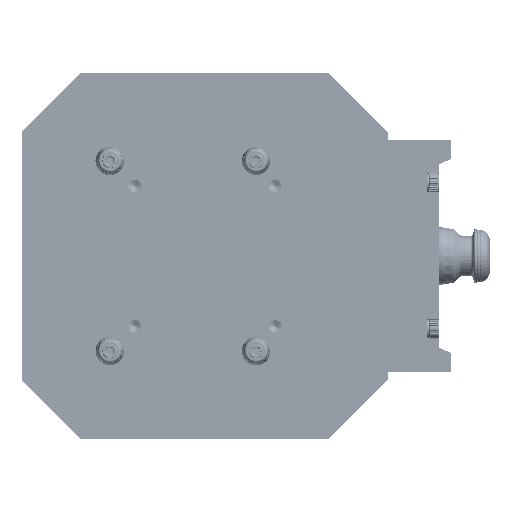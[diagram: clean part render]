
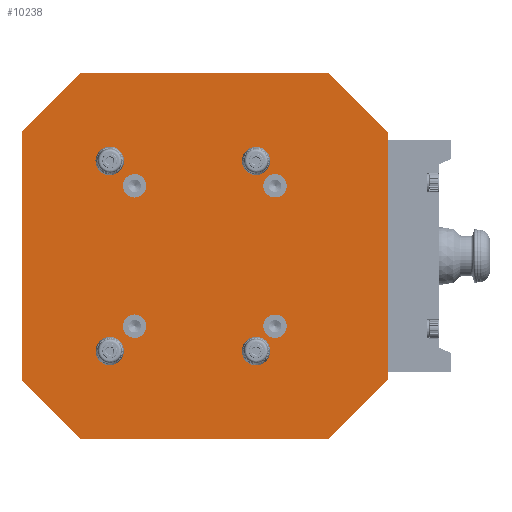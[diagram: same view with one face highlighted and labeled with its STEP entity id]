
A CAD part, front view. The second image highlights one B-rep face of the part: STEP entity #10238.
In plain terms, the highlighted planar face has unit normal (0, -1, 0).
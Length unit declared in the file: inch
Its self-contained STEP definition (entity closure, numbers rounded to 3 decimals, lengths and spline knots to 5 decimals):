
#297 = EDGE_CURVE ( 'NONE', #48071, #48071, #34391, .T. ) ;
#525 = DIRECTION ( 'NONE',  ( 1., 0., 0. ) ) ;
#1076 = CARTESIAN_POINT ( 'NONE',  ( 4.92126, 0., 3.34646 ) ) ;
#1168 = CARTESIAN_POINT ( 'NONE',  ( 1.88976, 0., 1.88976 ) ) ;
#1346 = VERTEX_POINT ( 'NONE', #46002 ) ;
#1878 = CARTESIAN_POINT ( 'NONE',  ( 1.37795, 0., -2.79541 ) ) ;
#1916 = VECTOR ( 'NONE', #18709, 39.37008 ) ;
#2020 = EDGE_CURVE ( 'NONE', #14992, #32936, #4237, .T. ) ;
#2345 = VERTEX_POINT ( 'NONE', #9365 ) ;
#3326 = EDGE_CURVE ( 'NONE', #4124, #4124, #13942, .T. ) ;
#3766 = VERTEX_POINT ( 'NONE', #23428 ) ;
#3884 = DIRECTION ( 'NONE',  ( 0., -1., 0. ) ) ;
#4099 = CARTESIAN_POINT ( 'NONE',  ( -4.92126, 0., -3.34646 ) ) ;
#4122 = DIRECTION ( 'NONE',  ( 0., 0., -1. ) ) ;
#4124 = VERTEX_POINT ( 'NONE', #42393 ) ;
#4195 = CARTESIAN_POINT ( 'NONE',  ( -4.92126, 0., 3.34646 ) ) ;
#4237 = LINE ( 'NONE', #7932, #30428 ) ;
#4385 = DIRECTION ( 'NONE',  ( 0., -1., 0. ) ) ;
#4699 = CARTESIAN_POINT ( 'NONE',  ( 4.92126, 0., -3.34646 ) ) ;
#4759 = LINE ( 'NONE', #1076, #11234 ) ;
#5616 = VECTOR ( 'NONE', #31457, 39.37008 ) ;
#6181 = CARTESIAN_POINT ( 'NONE',  ( -1.88976, 0., 1.88976 ) ) ;
#6401 = EDGE_LOOP ( 'NONE', ( #39217 ) ) ;
#6871 = EDGE_CURVE ( 'NONE', #36466, #22987, #44443, .T. ) ;
#6970 = VERTEX_POINT ( 'NONE', #29474 ) ;
#7932 = CARTESIAN_POINT ( 'NONE',  ( 3.34646, 0., -4.92126 ) ) ;
#8763 = FACE_BOUND ( 'NONE', #30552, .T. ) ;
#9365 = CARTESIAN_POINT ( 'NONE',  ( 3.34646, 0., 4.92126 ) ) ;
#9380 = DIRECTION ( 'NONE',  ( 0., 0., -1. ) ) ;
#9665 = AXIS2_PLACEMENT_3D ( 'NONE', #13380, #28342, #21266 ) ;
#9988 = VECTOR ( 'NONE', #37329, 39.37008 ) ;
#10238 = ADVANCED_FACE ( 'NONE', ( #23979, #19829, #19580, #34753, #38926, #23025, #8763, #23751, #37959 ), #31053, .T. ) ;
#10744 = EDGE_CURVE ( 'NONE', #32936, #30944, #44529, .T. ) ;
#10856 = CARTESIAN_POINT ( 'NONE',  ( -3.34646, 0., 4.92126 ) ) ;
#10916 = CARTESIAN_POINT ( 'NONE',  ( -3.34646, 0., -4.92126 ) ) ;
#11234 = VECTOR ( 'NONE', #16058, 39.37008 ) ;
#11296 = LINE ( 'NONE', #22386, #9988 ) ;
#11782 = ORIENTED_EDGE ( 'NONE', *, *, #15614, .F. ) ;
#12705 = CARTESIAN_POINT ( 'NONE',  ( 1.88976, 0., -2.20511 ) ) ;
#12822 = DIRECTION ( 'NONE',  ( 0., -1., 0. ) ) ;
#13380 = CARTESIAN_POINT ( 'NONE',  ( 1.88976, 0., -1.88976 ) ) ;
#13707 = EDGE_CURVE ( 'NONE', #28380, #28380, #19899, .T. ) ;
#13942 = CIRCLE ( 'NONE', #20236, 0.31535 ) ;
#13997 = EDGE_CURVE ( 'NONE', #6970, #14992, #4759, .T. ) ;
#14125 = DIRECTION ( 'NONE',  ( -1., 0., 0. ) ) ;
#14992 = VERTEX_POINT ( 'NONE', #4699 ) ;
#15230 = EDGE_LOOP ( 'NONE', ( #11782 ) ) ;
#15614 = EDGE_CURVE ( 'NONE', #42859, #42859, #23122, .T. ) ;
#16025 = DIRECTION ( 'NONE',  ( 0., -1., 0. ) ) ;
#16058 = DIRECTION ( 'NONE',  ( 0., 0., -1. ) ) ;
#16640 = CARTESIAN_POINT ( 'NONE',  ( -2.55906, 0., -2.55906 ) ) ;
#18080 = ORIENTED_EDGE ( 'NONE', *, *, #13707, .F. ) ;
#18513 = DIRECTION ( 'NONE',  ( 0., -1., 0. ) ) ;
#18709 = DIRECTION ( 'NONE',  ( 0.707, 0., 0.707 ) ) ;
#19210 = LINE ( 'NONE', #10856, #22032 ) ;
#19231 = VECTOR ( 'NONE', #45571, 39.37008 ) ;
#19299 = ORIENTED_EDGE ( 'NONE', *, *, #25139, .F. ) ;
#19344 = LINE ( 'NONE', #4099, #19231 ) ;
#19395 = DIRECTION ( 'NONE',  ( 0., 0., -1. ) ) ;
#19580 = FACE_BOUND ( 'NONE', #6401, .T. ) ;
#19829 = FACE_BOUND ( 'NONE', #20257, .T. ) ;
#19899 = CIRCLE ( 'NONE', #9665, 0.31535 ) ;
#19978 = CARTESIAN_POINT ( 'NONE',  ( 1.37795, 0., 2.55906 ) ) ;
#20236 = AXIS2_PLACEMENT_3D ( 'NONE', #44494, #18513, #48186 ) ;
#20257 = EDGE_LOOP ( 'NONE', ( #18080 ) ) ;
#20451 = LINE ( 'NONE', #42273, #5616 ) ;
#20590 = VERTEX_POINT ( 'NONE', #43354 ) ;
#20678 = EDGE_CURVE ( 'NONE', #29111, #29111, #27723, .T. ) ;
#20730 = AXIS2_PLACEMENT_3D ( 'NONE', #38019, #4385, #19395 ) ;
#21266 = DIRECTION ( 'NONE',  ( 0., 0., -1. ) ) ;
#21687 = ORIENTED_EDGE ( 'NONE', *, *, #3326, .F. ) ;
#22032 = VECTOR ( 'NONE', #525, 39.37008 ) ;
#22386 = CARTESIAN_POINT ( 'NONE',  ( 3.34646, 0., 4.92126 ) ) ;
#22987 = VERTEX_POINT ( 'NONE', #41818 ) ;
#23025 = FACE_BOUND ( 'NONE', #15230, .T. ) ;
#23122 = CIRCLE ( 'NONE', #20730, 0.23635 ) ;
#23428 = CARTESIAN_POINT ( 'NONE',  ( -2.55906, 0., 2.32271 ) ) ;
#23751 = FACE_BOUND ( 'NONE', #28017, .T. ) ;
#23979 = FACE_BOUND ( 'NONE', #35064, .T. ) ;
#24374 = CIRCLE ( 'NONE', #31405, 0.31535 ) ;
#24425 = EDGE_LOOP ( 'NONE', ( #19299 ) ) ;
#25139 = EDGE_CURVE ( 'NONE', #41615, #41615, #43596, .T. ) ;
#25890 = CIRCLE ( 'NONE', #39991, 0.23635 ) ;
#26673 = EDGE_LOOP ( 'NONE', ( #40993, #26838, #27038, #34194, #46697, #31909, #47691, #47861 ) ) ;
#26836 = DIRECTION ( 'NONE',  ( 0., 0., -1. ) ) ;
#26838 = ORIENTED_EDGE ( 'NONE', *, *, #38675, .F. ) ;
#26923 = EDGE_CURVE ( 'NONE', #2345, #6970, #11296, .T. ) ;
#27038 = ORIENTED_EDGE ( 'NONE', *, *, #10744, .F. ) ;
#27156 = AXIS2_PLACEMENT_3D ( 'NONE', #6181, #36128, #9380 ) ;
#27384 = DIRECTION ( 'NONE',  ( 0., -1., 0. ) ) ;
#27631 = CARTESIAN_POINT ( 'NONE',  ( 0., 0., 0. ) ) ;
#27723 = CIRCLE ( 'NONE', #35537, 0.23635 ) ;
#27907 = DIRECTION ( 'NONE',  ( 0., 0., -1. ) ) ;
#27938 = VECTOR ( 'NONE', #14125, 39.37008 ) ;
#28017 = EDGE_LOOP ( 'NONE', ( #38254 ) ) ;
#28342 = DIRECTION ( 'NONE',  ( 0., -1., 0. ) ) ;
#28380 = VERTEX_POINT ( 'NONE', #12705 ) ;
#29111 = VERTEX_POINT ( 'NONE', #32529 ) ;
#29474 = CARTESIAN_POINT ( 'NONE',  ( 4.92126, 0., 3.34646 ) ) ;
#30428 = VECTOR ( 'NONE', #37866, 39.37008 ) ;
#30552 = EDGE_LOOP ( 'NONE', ( #40863 ) ) ;
#30944 = VERTEX_POINT ( 'NONE', #37628 ) ;
#31053 = PLANE ( 'NONE',  #43613 ) ;
#31124 = EDGE_CURVE ( 'NONE', #20590, #36466, #20451, .T. ) ;
#31366 = EDGE_CURVE ( 'NONE', #1346, #1346, #24374, .T. ) ;
#31405 = AXIS2_PLACEMENT_3D ( 'NONE', #1168, #3884, #4122 ) ;
#31457 = DIRECTION ( 'NONE',  ( 0., 0., 1. ) ) ;
#31589 = DIRECTION ( 'NONE',  ( 0., -1., 0. ) ) ;
#31909 = ORIENTED_EDGE ( 'NONE', *, *, #26923, .F. ) ;
#32529 = CARTESIAN_POINT ( 'NONE',  ( -2.55906, 0., -2.79541 ) ) ;
#32936 = VERTEX_POINT ( 'NONE', #45663 ) ;
#33762 = CARTESIAN_POINT ( 'NONE',  ( -1.88976, 0., 1.57441 ) ) ;
#34194 = ORIENTED_EDGE ( 'NONE', *, *, #2020, .F. ) ;
#34391 = CIRCLE ( 'NONE', #39906, 0.23635 ) ;
#34753 = FACE_BOUND ( 'NONE', #24425, .T. ) ;
#35064 = EDGE_LOOP ( 'NONE', ( #21687 ) ) ;
#35537 = AXIS2_PLACEMENT_3D ( 'NONE', #16640, #31589, #27907 ) ;
#36128 = DIRECTION ( 'NONE',  ( 0., -1., 0. ) ) ;
#36466 = VERTEX_POINT ( 'NONE', #43667 ) ;
#37329 = DIRECTION ( 'NONE',  ( 0.707, 0., -0.707 ) ) ;
#37628 = CARTESIAN_POINT ( 'NONE',  ( -3.34646, 0., -4.92126 ) ) ;
#37866 = DIRECTION ( 'NONE',  ( -0.707, 0., -0.707 ) ) ;
#37959 = FACE_OUTER_BOUND ( 'NONE', #26673, .T. ) ;
#38019 = CARTESIAN_POINT ( 'NONE',  ( 1.37795, 0., -2.55906 ) ) ;
#38142 = EDGE_LOOP ( 'NONE', ( #39049 ) ) ;
#38254 = ORIENTED_EDGE ( 'NONE', *, *, #45429, .F. ) ;
#38358 = DIRECTION ( 'NONE',  ( 0., 0., -1. ) ) ;
#38675 = EDGE_CURVE ( 'NONE', #30944, #20590, #19344, .T. ) ;
#38690 = DIRECTION ( 'NONE',  ( 0., 0., -1. ) ) ;
#38926 = FACE_BOUND ( 'NONE', #38142, .T. ) ;
#39049 = ORIENTED_EDGE ( 'NONE', *, *, #20678, .F. ) ;
#39217 = ORIENTED_EDGE ( 'NONE', *, *, #31366, .F. ) ;
#39906 = AXIS2_PLACEMENT_3D ( 'NONE', #19978, #16025, #38358 ) ;
#39991 = AXIS2_PLACEMENT_3D ( 'NONE', #45468, #12822, #26836 ) ;
#40474 = CARTESIAN_POINT ( 'NONE',  ( 1.37795, 0., 2.32271 ) ) ;
#40863 = ORIENTED_EDGE ( 'NONE', *, *, #297, .F. ) ;
#40993 = ORIENTED_EDGE ( 'NONE', *, *, #31124, .F. ) ;
#41393 = EDGE_CURVE ( 'NONE', #22987, #2345, #19210, .T. ) ;
#41615 = VERTEX_POINT ( 'NONE', #33762 ) ;
#41818 = CARTESIAN_POINT ( 'NONE',  ( -3.34646, 0., 4.92126 ) ) ;
#42273 = CARTESIAN_POINT ( 'NONE',  ( -4.92126, 0., 3.34646 ) ) ;
#42393 = CARTESIAN_POINT ( 'NONE',  ( -1.88976, 0., -2.20511 ) ) ;
#42859 = VERTEX_POINT ( 'NONE', #1878 ) ;
#43354 = CARTESIAN_POINT ( 'NONE',  ( -4.92126, 0., -3.34646 ) ) ;
#43596 = CIRCLE ( 'NONE', #27156, 0.31535 ) ;
#43613 = AXIS2_PLACEMENT_3D ( 'NONE', #27631, #27384, #38690 ) ;
#43667 = CARTESIAN_POINT ( 'NONE',  ( -4.92126, 0., 3.34646 ) ) ;
#44443 = LINE ( 'NONE', #4195, #1916 ) ;
#44494 = CARTESIAN_POINT ( 'NONE',  ( -1.88976, 0., -1.88976 ) ) ;
#44529 = LINE ( 'NONE', #10916, #27938 ) ;
#45429 = EDGE_CURVE ( 'NONE', #3766, #3766, #25890, .T. ) ;
#45468 = CARTESIAN_POINT ( 'NONE',  ( -2.55906, 0., 2.55906 ) ) ;
#45571 = DIRECTION ( 'NONE',  ( -0.707, 0., 0.707 ) ) ;
#45663 = CARTESIAN_POINT ( 'NONE',  ( 3.34646, 0., -4.92126 ) ) ;
#46002 = CARTESIAN_POINT ( 'NONE',  ( 1.88976, 0., 1.57441 ) ) ;
#46697 = ORIENTED_EDGE ( 'NONE', *, *, #13997, .F. ) ;
#47691 = ORIENTED_EDGE ( 'NONE', *, *, #41393, .F. ) ;
#47861 = ORIENTED_EDGE ( 'NONE', *, *, #6871, .F. ) ;
#48071 = VERTEX_POINT ( 'NONE', #40474 ) ;
#48186 = DIRECTION ( 'NONE',  ( 0., 0., -1. ) ) ;
